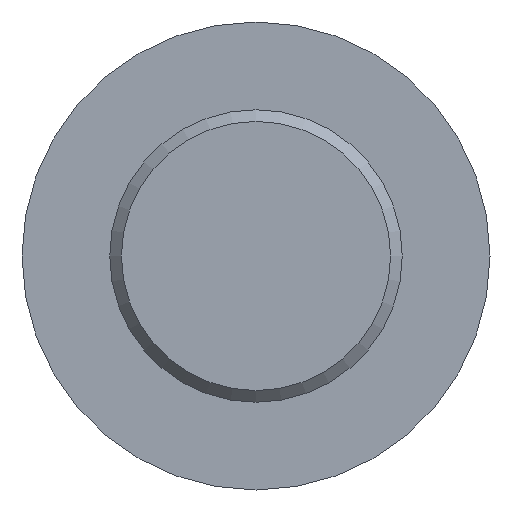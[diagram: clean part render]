
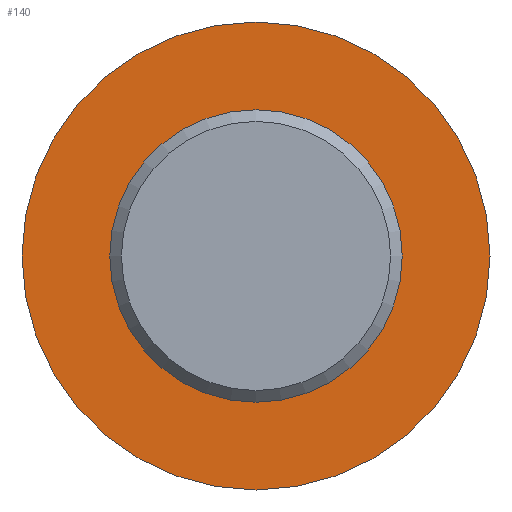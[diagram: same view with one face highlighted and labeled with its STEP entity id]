
A CAD part, front view. The second image highlights one B-rep face of the part: STEP entity #140.
In plain terms, the highlighted planar face has unit normal (0, -1, 0).
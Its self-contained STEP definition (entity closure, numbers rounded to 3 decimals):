
#31 = CYLINDRICAL_SURFACE('',#32,8.);
#32 = AXIS2_PLACEMENT_3D('',#33,#34,#35);
#33 = CARTESIAN_POINT('',(-32.,13.,-10.));
#34 = DIRECTION('',(0.,1.,0.));
#35 = DIRECTION('',(0.,-0.,1.));
#56 = VERTEX_POINT('',#57);
#57 = CARTESIAN_POINT('',(-32.,13.,-2.));
#78 = EDGE_CURVE('',#56,#56,#79,.T.);
#79 = SURFACE_CURVE('',#80,(#85,#92),.PCURVE_S1.);
#80 = CIRCLE('',#81,8.);
#81 = AXIS2_PLACEMENT_3D('',#82,#83,#84);
#82 = CARTESIAN_POINT('',(-32.,13.,-10.));
#83 = DIRECTION('',(0.,1.,0.));
#84 = DIRECTION('',(0.,-0.,1.));
#85 = PCURVE('',#31,#86);
#86 = DEFINITIONAL_REPRESENTATION('',(#87),#91);
#87 = LINE('',#88,#89);
#88 = CARTESIAN_POINT('',(0.,0.));
#89 = VECTOR('',#90,1.);
#90 = DIRECTION('',(1.,0.));
#91 = ( GEOMETRIC_REPRESENTATION_CONTEXT(2) 
PARAMETRIC_REPRESENTATION_CONTEXT() REPRESENTATION_CONTEXT('2D SPACE',''
  ) );
#92 = PCURVE('',#93,#98);
#93 = PLANE('',#94);
#94 = AXIS2_PLACEMENT_3D('',#95,#96,#97);
#95 = CARTESIAN_POINT('',(-32.,13.,-10.));
#96 = DIRECTION('',(0.,1.,0.));
#97 = DIRECTION('',(0.,-0.,1.));
#98 = DEFINITIONAL_REPRESENTATION('',(#99),#103);
#99 = CIRCLE('',#100,8.);
#100 = AXIS2_PLACEMENT_2D('',#101,#102);
#101 = CARTESIAN_POINT('',(0.,0.));
#102 = DIRECTION('',(1.,0.));
#103 = ( GEOMETRIC_REPRESENTATION_CONTEXT(2) 
PARAMETRIC_REPRESENTATION_CONTEXT() REPRESENTATION_CONTEXT('2D SPACE',''
  ) );
#140 = ADVANCED_FACE('',(#141,#144),#93,.F.);
#141 = FACE_BOUND('',#142,.F.);
#142 = EDGE_LOOP('',(#143));
#143 = ORIENTED_EDGE('',*,*,#78,.T.);
#144 = FACE_BOUND('',#145,.F.);
#145 = EDGE_LOOP('',(#146));
#146 = ORIENTED_EDGE('',*,*,#147,.F.);
#147 = EDGE_CURVE('',#148,#148,#150,.T.);
#148 = VERTEX_POINT('',#149);
#149 = CARTESIAN_POINT('',(-32.,13.,-5.));
#150 = SURFACE_CURVE('',#151,(#156,#163),.PCURVE_S1.);
#151 = CIRCLE('',#152,5.);
#152 = AXIS2_PLACEMENT_3D('',#153,#154,#155);
#153 = CARTESIAN_POINT('',(-32.,13.,-10.));
#154 = DIRECTION('',(0.,1.,0.));
#155 = DIRECTION('',(0.,-0.,1.));
#156 = PCURVE('',#93,#157);
#157 = DEFINITIONAL_REPRESENTATION('',(#158),#162);
#158 = CIRCLE('',#159,5.);
#159 = AXIS2_PLACEMENT_2D('',#160,#161);
#160 = CARTESIAN_POINT('',(0.,0.));
#161 = DIRECTION('',(1.,0.));
#162 = ( GEOMETRIC_REPRESENTATION_CONTEXT(2) 
PARAMETRIC_REPRESENTATION_CONTEXT() REPRESENTATION_CONTEXT('2D SPACE',''
  ) );
#163 = PCURVE('',#164,#169);
#164 = CYLINDRICAL_SURFACE('',#165,5.);
#165 = AXIS2_PLACEMENT_3D('',#166,#167,#168);
#166 = CARTESIAN_POINT('',(-32.,0.4,-10.));
#167 = DIRECTION('',(0.,1.,0.));
#168 = DIRECTION('',(0.,-0.,1.));
#169 = DEFINITIONAL_REPRESENTATION('',(#170),#174);
#170 = LINE('',#171,#172);
#171 = CARTESIAN_POINT('',(0.,12.6));
#172 = VECTOR('',#173,1.);
#173 = DIRECTION('',(1.,0.));
#174 = ( GEOMETRIC_REPRESENTATION_CONTEXT(2) 
PARAMETRIC_REPRESENTATION_CONTEXT() REPRESENTATION_CONTEXT('2D SPACE',''
  ) );
